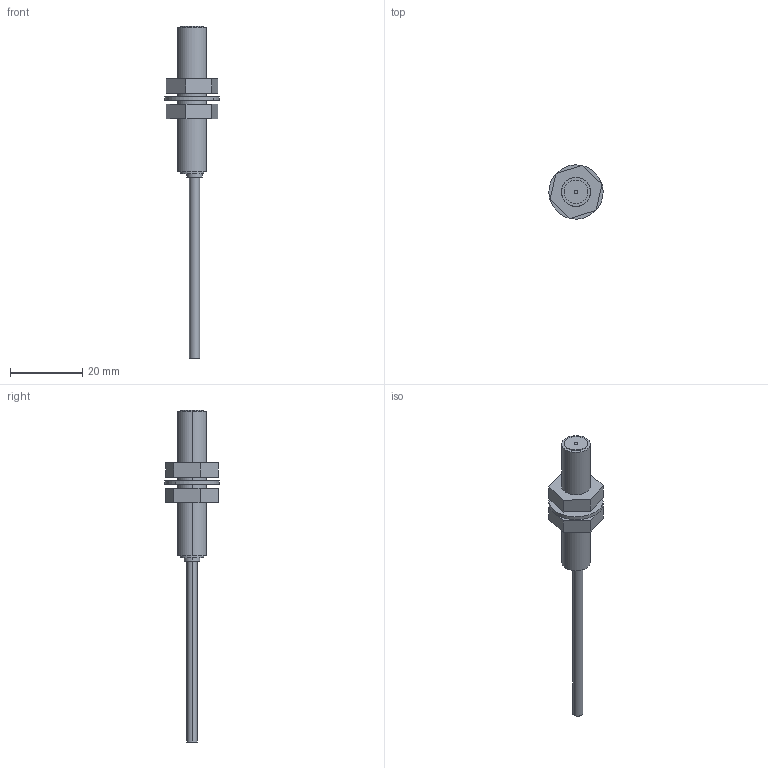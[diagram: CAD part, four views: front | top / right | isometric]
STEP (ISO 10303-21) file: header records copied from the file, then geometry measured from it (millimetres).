
FILE_DESCRIPTION (( 'STEP AP203' ), '1' );
FILE_NAME ('gx-108mk.STEP', '2017-05-17T10:33:52', ( '' ), ( '' ), 'SwSTEP 2.0', 'SolidWorks 2014', '' );
FILE_SCHEMA (( 'CONFIG_CONTROL_DESIGN' ));
Length unit declared in the file: millimetre
Products named in the file (4): gx-108mk dianpian; gx-108mk luomu; gx-108mk benti; gx-108mk
Assembly tree (4 placements, depth 2):
  gx-108mk
    gx-108mk benti
    gx-108mk dianpian
    gx-108mk luomu  x2
Bounding box: 14.98 x 14.98 x 91.8 mm (x, y, z)
Volume: 3254.9 mm3; surface area: 2848.1 mm2
Topology: 4 solids, 4 shells, 57 faces, 120 edges, 80 vertices
Faces by surface type: plane 29, cylinder 28
Entity records: 1716 total; most frequent: DIRECTION 256, CARTESIAN_POINT 214, ORIENTED_EDGE 192, AXIS2_PLACEMENT_3D 106, EDGE_CURVE 96, VERTEX_POINT 64, EDGE_LOOP 60, CIRCLE 52
